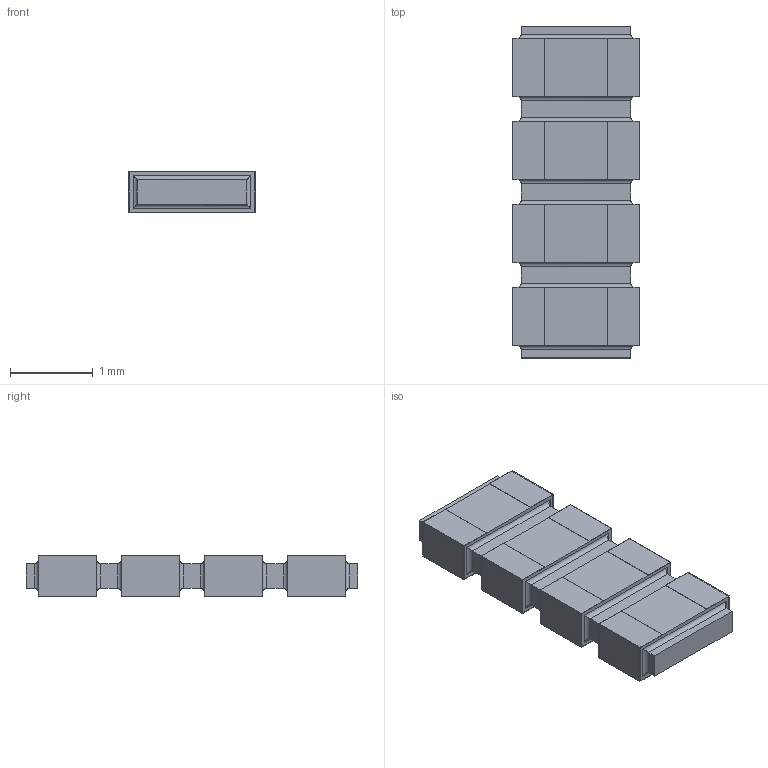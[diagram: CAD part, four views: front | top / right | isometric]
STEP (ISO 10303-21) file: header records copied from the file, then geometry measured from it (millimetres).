
FILE_DESCRIPTION(/* description */ (''),/* implementation_level */ '2;1');
FILE_NAME(/* name */ 'S:\DOCUMENT\AUTOCAD\3D_Modèles\10_3D-pour-VISHAY-COM\PRA\PRA100\PRA100-I2_à_I8\20_STEP\PRA100I4_B-or-N-or-G.stp',/* time_stamp */ '2017-12-18T09:15:52+01:00',/* author */ ('dparmentier'),/* organization */ ('unknown'),/* preprocessor_version */ 'ST-DEVELOPER v17',/* originating_system */ 'Autodesk Inventor 2018',/* authorisation */ '');
FILE_SCHEMA (('AUTOMOTIVE_DESIGN { 1 0 10303 214 3 1 1 }'));
Length unit declared in the file: millimetre
Products named in the file (1): PRA100I4_B-or-N-or-G
Bounding box: 1.52 x 4 x 0.5 mm (x, y, z)
Volume: 2.6 mm3; surface area: 32.2 mm2
Topology: 9 solids, 9 shells, 158 faces, 364 edges, 232 vertices
Faces by surface type: plane 126, cylinder 32
Entity records: 4409 total; most frequent: CARTESIAN_POINT 755, ORIENTED_EDGE 728, DIRECTION 714, EDGE_CURVE 364, LINE 332, VECTOR 332, VERTEX_POINT 232, AXIS2_PLACEMENT_3D 191
